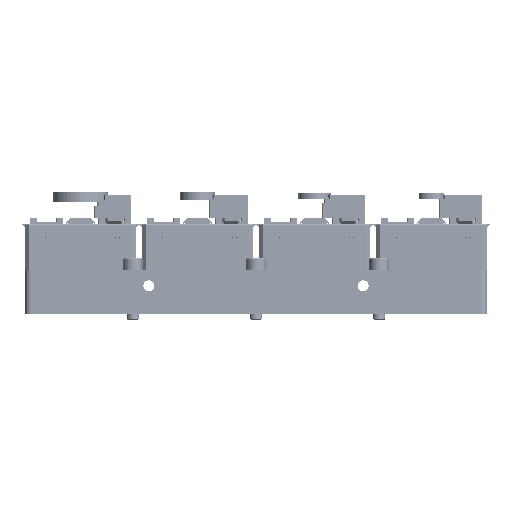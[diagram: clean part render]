
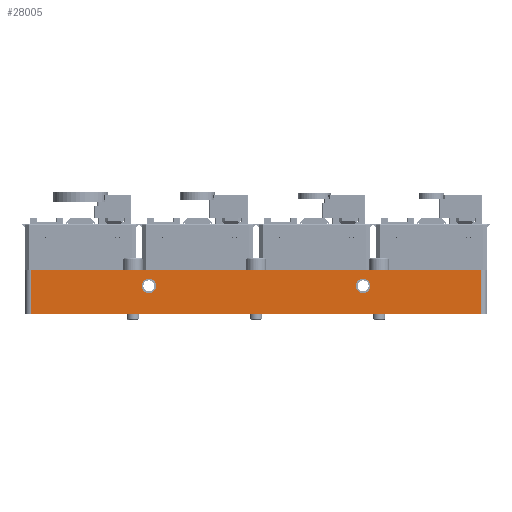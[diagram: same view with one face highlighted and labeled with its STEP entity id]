
A CAD part, front view. The second image highlights one B-rep face of the part: STEP entity #28005.
In plain terms, the highlighted planar face has unit normal (0, -1, 0).
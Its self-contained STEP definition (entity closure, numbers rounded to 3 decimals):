
#12310=FACE_BOUND('',#76586,.T.);
#12311=FACE_BOUND('',#76587,.T.);
#12312=FACE_BOUND('',#76588,.T.);
#28005=ADVANCED_FACE('',(#12310,#12311,#12312),#43680,.T.);
#43680=PLANE('',#334537);
#76586=EDGE_LOOP('',(#141697,#141698,#141699,#141700));
#76587=EDGE_LOOP('',(#141701));
#76588=EDGE_LOOP('',(#141702));
#87629=CIRCLE('',#334531,5.85);
#87631=CIRCLE('',#334534,5.85);
#141697=ORIENTED_EDGE('',*,*,#232549,.F.);
#141698=ORIENTED_EDGE('',*,*,#232569,.T.);
#141699=ORIENTED_EDGE('',*,*,#232534,.T.);
#141700=ORIENTED_EDGE('',*,*,#232570,.T.);
#141701=ORIENTED_EDGE('',*,*,#232565,.T.);
#141702=ORIENTED_EDGE('',*,*,#232567,.T.);
#194470=VERTEX_POINT('',#503109);
#194471=VERTEX_POINT('',#503111);
#194485=VERTEX_POINT('',#503140);
#194486=VERTEX_POINT('',#503142);
#194499=VERTEX_POINT('',#503174);
#194501=VERTEX_POINT('',#503179);
#232534=EDGE_CURVE('',#194471,#194470,#272059,.T.);
#232549=EDGE_CURVE('',#194485,#194486,#272062,.T.);
#232565=EDGE_CURVE('',#194499,#194499,#87629,.T.);
#232567=EDGE_CURVE('',#194501,#194501,#87631,.T.);
#232569=EDGE_CURVE('',#194485,#194471,#272064,.T.);
#232570=EDGE_CURVE('',#194470,#194486,#272065,.T.);
#272059=LINE('',#503110,#309193);
#272062=LINE('',#503141,#309196);
#272064=LINE('',#503183,#309198);
#272065=LINE('',#503184,#309199);
#309193=VECTOR('',#388440,1.);
#309196=VECTOR('',#388469,1.);
#309198=VECTOR('',#388517,1.);
#309199=VECTOR('',#388518,1.);
#334531=AXIS2_PLACEMENT_3D('',#503173,#388505,#388506);
#334534=AXIS2_PLACEMENT_3D('',#503178,#388511,#388512);
#334537=AXIS2_PLACEMENT_3D('',#503185,#388519,#388520);
#388440=DIRECTION('',(-1.,0.,0.));
#388469=DIRECTION('',(-1.,0.,0.));
#388505=DIRECTION('',(0.,1.,0.));
#388506=DIRECTION('',(0.,0.,-1.));
#388511=DIRECTION('',(0.,1.,0.));
#388512=DIRECTION('',(0.,0.,-1.));
#388517=DIRECTION('',(0.,0.,1.));
#388518=DIRECTION('',(0.,0.,-1.));
#388519=DIRECTION('',(0.,-1.,0.));
#388520=DIRECTION('',(1.,0.,0.));
#503109=CARTESIAN_POINT('',(0.,-695.,-26.));
#503110=CARTESIAN_POINT('',(412.5,-695.,-26.));
#503111=CARTESIAN_POINT('',(365.,-695.,-26.));
#503140=CARTESIAN_POINT('',(365.,-695.,-61.));
#503141=CARTESIAN_POINT('',(412.5,-695.,-61.));
#503142=CARTESIAN_POINT('',(0.,-695.,-61.));
#503173=CARTESIAN_POINT('',(95.5,-695.,-38.5));
#503174=CARTESIAN_POINT('',(95.5,-695.,-44.35));
#503178=CARTESIAN_POINT('',(269.5,-695.,-38.5));
#503179=CARTESIAN_POINT('',(269.5,-695.,-44.35));
#503183=CARTESIAN_POINT('',(365.,-695.,-7.25));
#503184=CARTESIAN_POINT('',(0.,-695.,-61.));
#503185=CARTESIAN_POINT('',(465.,-695.,-7.25));
